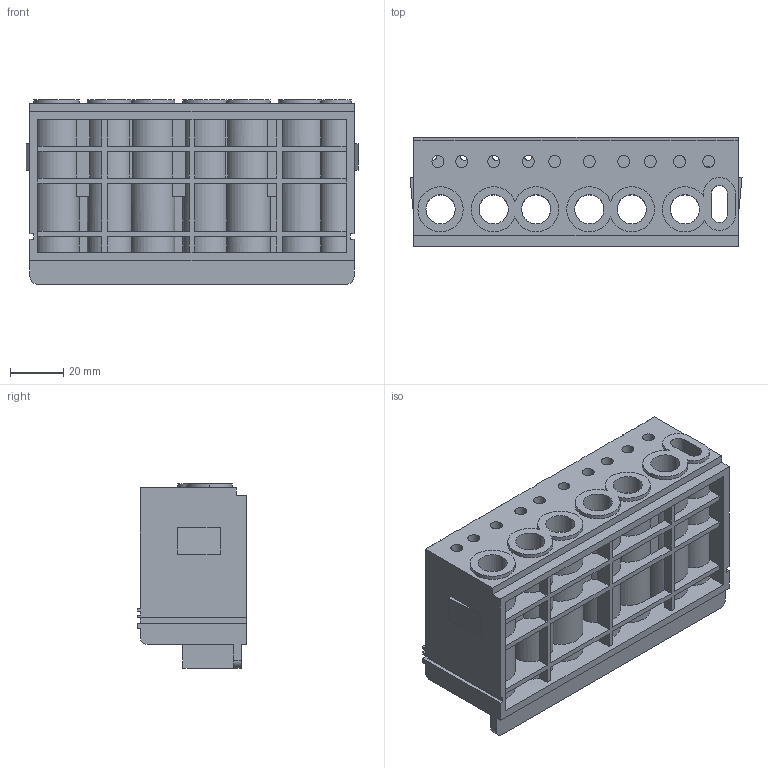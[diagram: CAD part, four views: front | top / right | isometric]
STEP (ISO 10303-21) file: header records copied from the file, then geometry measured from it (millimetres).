
FILE_DESCRIPTION (( 'STEP AP203' ), '1' );
FILE_NAME ('êîëîäêà êëåììíàÿ ÑÊÀÒ305.STEP', '2012-06-26T07:03:12', ( 'User' ), ( 'Computer' ), 'SwSTEP 2.0', 'SolidWorks 2012', '' );
FILE_SCHEMA (( 'CONFIG_CONTROL_DESIGN' ));
Length unit declared in the file: millimetre
Products named in the file (1): êîëîäêà êëåììíàÿ ÑÊÀÒ305
Bounding box: 125 x 41.2 x 69.5 mm (x, y, z)
Volume: 117113.4 mm3; surface area: 66582.9 mm2
Topology: 1 solids, 1 shells, 525 faces, 1602 edges, 1060 vertices
Faces by surface type: plane 411, cylinder 114
Entity records: 18159 total; most frequent: CARTESIAN_POINT 3320, ORIENTED_EDGE 3204, DIRECTION 2938, EDGE_CURVE 1602, LINE 1306, VECTOR 1306, VERTEX_POINT 1060, AXIS2_PLACEMENT_3D 816
